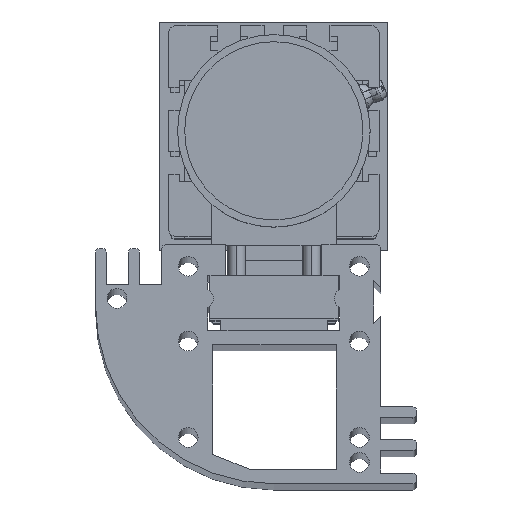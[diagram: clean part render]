
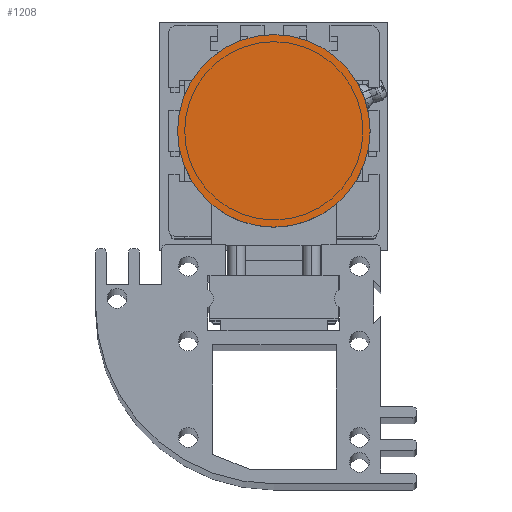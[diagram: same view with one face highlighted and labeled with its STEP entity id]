
A CAD part, top view. The second image highlights one B-rep face of the part: STEP entity #1208.
In plain terms, the highlighted planar face has unit normal (0, 0, 1).
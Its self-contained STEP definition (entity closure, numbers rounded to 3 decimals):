
#218 = AXIS2_PLACEMENT_3D ( 'NONE', #9361, #4308, #13912 ) ;
#930 = ORIENTED_EDGE ( 'NONE', *, *, #11709, .F. ) ;
#1208 = ADVANCED_FACE ( 'NONE', ( #2983 ), #4654, .T. ) ;
#1674 = VERTEX_POINT ( 'NONE', #5637 ) ;
#2453 = AXIS2_PLACEMENT_3D ( 'NONE', #11358, #17979, #20878 ) ;
#2983 = FACE_OUTER_BOUND ( 'NONE', #17723, .T. ) ;
#4192 = EDGE_CURVE ( 'NONE', #1674, #6888, #17277, .T. ) ;
#4308 = DIRECTION ( 'NONE',  ( 0., 0., -1. ) ) ;
#4654 = PLANE ( 'NONE',  #5789 ) ;
#4839 = DIRECTION ( 'NONE',  ( 1., 0., 0. ) ) ;
#5637 = CARTESIAN_POINT ( 'NONE',  ( -27., 0., 46. ) ) ;
#5789 = AXIS2_PLACEMENT_3D ( 'NONE', #6324, #7912, #4839 ) ;
#6324 = CARTESIAN_POINT ( 'NONE',  ( 0., 0., 46. ) ) ;
#6888 = VERTEX_POINT ( 'NONE', #10459 ) ;
#7622 = CIRCLE ( 'NONE', #218, 27. ) ;
#7912 = DIRECTION ( 'NONE',  ( 0., 0., 1. ) ) ;
#9361 = CARTESIAN_POINT ( 'NONE',  ( 0., 0., 46. ) ) ;
#10459 = CARTESIAN_POINT ( 'NONE',  ( 27., 0., 46. ) ) ;
#11358 = CARTESIAN_POINT ( 'NONE',  ( 0., 0., 46. ) ) ;
#11709 = EDGE_CURVE ( 'NONE', #6888, #1674, #7622, .T. ) ;
#13912 = DIRECTION ( 'NONE',  ( -1., 0., 0. ) ) ;
#14455 = ORIENTED_EDGE ( 'NONE', *, *, #4192, .F. ) ;
#17277 = CIRCLE ( 'NONE', #2453, 27. ) ;
#17723 = EDGE_LOOP ( 'NONE', ( #14455, #930 ) ) ;
#17979 = DIRECTION ( 'NONE',  ( 0., 0., -1. ) ) ;
#20878 = DIRECTION ( 'NONE',  ( -1., 0., 0. ) ) ;
